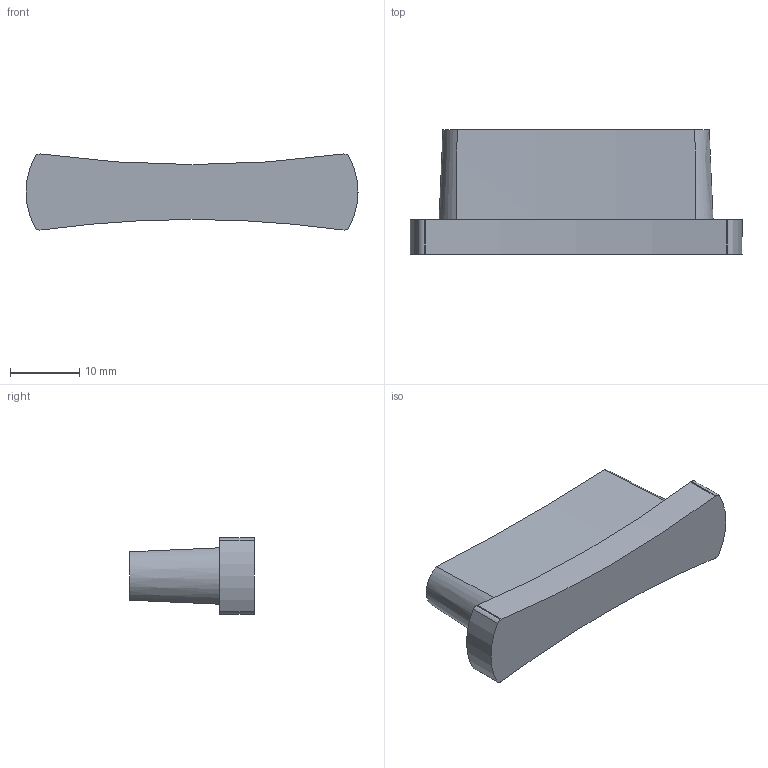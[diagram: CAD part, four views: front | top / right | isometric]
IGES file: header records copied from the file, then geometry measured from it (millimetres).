
Start section: Data from Parasolid IGES Translator 15.0.47, Copyright(c) 2006 Siemens P LM Software. All Rights Reserved.
Global section: file name: 9995493.igs; native system:  By UGS Corp.; preprocessor: XPlus GENERIC/IGES 3.0; author: Noname; organization: Noname; date: 20140122.171653; units: millimetre
Bounding box: 48 x 18 x 11 mm (x, y, z)
Surface area: 2712.2 mm2 (no closed solid volume)
Topology: 0 solids, 0 shells, 23 faces, 116 edges, 114 vertices
Faces by surface type: revolution 18, extrusion 5
